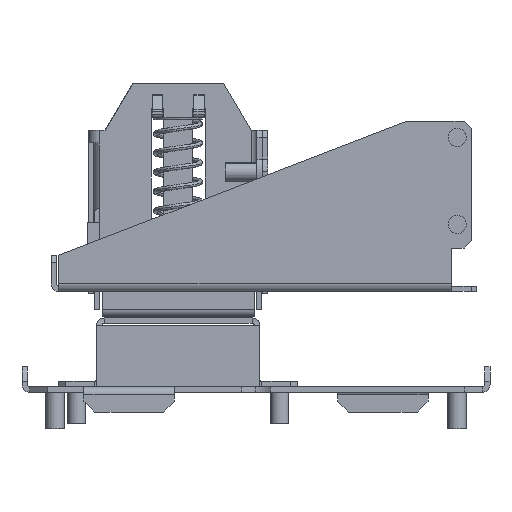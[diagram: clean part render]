
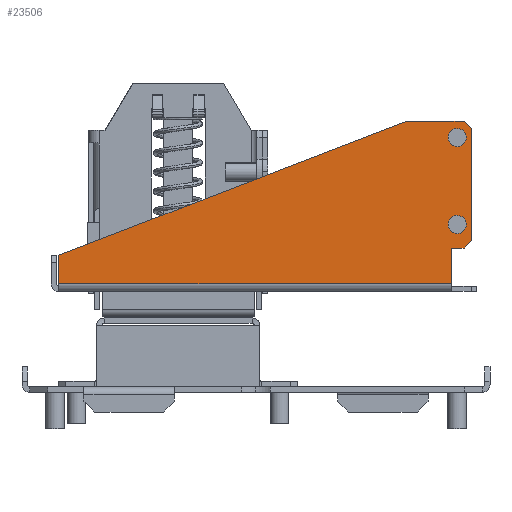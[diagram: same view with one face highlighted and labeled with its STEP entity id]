
A CAD part, left-side view. The second image highlights one B-rep face of the part: STEP entity #23506.
In plain terms, the highlighted planar face has unit normal (-1, 0, 0).
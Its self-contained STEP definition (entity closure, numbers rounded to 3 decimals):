
#18516=CARTESIAN_POINT(' ',(-68.25,-50.4,0.6));
#18517=VERTEX_POINT(' ',#18516);
#18531=CARTESIAN_POINT(' ',(-68.25,-50.4,0.6));
#18536=DIRECTION(' ',(0.,1.,0.));
#18541=VECTOR(' ',#18536,1.);
#18546=LINE('',#18531,#18541);
#18551=CARTESIAN_POINT(' ',(-68.25,58.,0.6));
#18552=VERTEX_POINT(' ',#18551);
#18556=EDGE_CURVE(' ',#18517,#18552,#18546,.T.);
#23156=CARTESIAN_POINT(' ',(-68.25,-50.4,10.5));
#23157=VERTEX_POINT(' ',#23156);
#23171=CARTESIAN_POINT(' ',(-68.25,-50.4,10.5));
#23176=DIRECTION(' ',(0.,0.,-1.));
#23181=VECTOR(' ',#23176,1.);
#23186=LINE('',#23171,#23181);
#23191=EDGE_CURVE(' ',#23157,#18517,#23186,.T.);
#23221=DIRECTION(' ',(-1.,-0.,0.));
#23226=CARTESIAN_POINT(' ',(-68.25,-55.9,45.5));
#23231=DIRECTION(' ',(-0.,1.,0.));
#23236=AXIS2_PLACEMENT_3D(' ',#23226,#23221,#23231);
#23241=PLANE('NONE',#23236);
#23246=CARTESIAN_POINT(' ',(-68.25,-53.9,10.5));
#23251=DIRECTION(' ',(0.,1.,0.));
#23256=VECTOR(' ',#23251,1.);
#23261=LINE('',#23246,#23256);
#23266=CARTESIAN_POINT(' ',(-68.25,-53.9,10.5));
#23267=VERTEX_POINT(' ',#23266);
#23271=EDGE_CURVE(' ',#23267,#23157,#23261,.T.);
#23276=ORIENTED_EDGE(' ',*,*,#23271,.F.);
#23281=CARTESIAN_POINT(' ',(-68.25,-53.9,10.5));
#23286=DIRECTION(' ',(0.,-0.707,0.707));
#23291=VECTOR(' ',#23286,1.);
#23296=LINE('',#23281,#23291);
#23301=CARTESIAN_POINT(' ',(-68.25,-55.9,12.5));
#23302=VERTEX_POINT(' ',#23301);
#23306=EDGE_CURVE(' ',#23267,#23302,#23296,.T.);
#23311=ORIENTED_EDGE(' ',*,*,#23306,.T.);
#23316=CARTESIAN_POINT(' ',(-68.25,-55.9,12.5));
#23321=DIRECTION(' ',(0.,0.,1.));
#23326=VECTOR(' ',#23321,1.);
#23331=LINE('',#23316,#23326);
#23336=CARTESIAN_POINT(' ',(-68.25,-55.9,43.5));
#23337=VERTEX_POINT(' ',#23336);
#23341=EDGE_CURVE(' ',#23302,#23337,#23331,.T.);
#23346=ORIENTED_EDGE(' ',*,*,#23341,.T.);
#23351=CARTESIAN_POINT(' ',(-68.25,-55.9,43.5));
#23356=DIRECTION(' ',(0.,0.707,0.707));
#23361=VECTOR(' ',#23356,1.);
#23366=LINE('',#23351,#23361);
#23371=CARTESIAN_POINT(' ',(-68.25,-53.9,45.5));
#23372=VERTEX_POINT(' ',#23371);
#23376=EDGE_CURVE(' ',#23337,#23372,#23366,.T.);
#23381=ORIENTED_EDGE(' ',*,*,#23376,.T.);
#23386=CARTESIAN_POINT(' ',(-68.25,-53.9,45.5));
#23391=DIRECTION(' ',(0.,1.,0.));
#23396=VECTOR(' ',#23391,1.);
#23401=LINE('',#23386,#23396);
#23406=CARTESIAN_POINT(' ',(-68.25,-38.,45.5));
#23407=VERTEX_POINT(' ',#23406);
#23411=EDGE_CURVE(' ',#23372,#23407,#23401,.T.);
#23416=ORIENTED_EDGE(' ',*,*,#23411,.T.);
#23421=CARTESIAN_POINT(' ',(-68.25,-38.,45.5));
#23426=DIRECTION(' ',(0.,0.933,-0.36));
#23431=VECTOR(' ',#23426,1.);
#23436=LINE('',#23421,#23431);
#23441=CARTESIAN_POINT(' ',(-68.25,58.,8.5));
#23442=VERTEX_POINT(' ',#23441);
#23446=EDGE_CURVE(' ',#23407,#23442,#23436,.T.);
#23451=ORIENTED_EDGE(' ',*,*,#23446,.T.);
#23456=CARTESIAN_POINT(' ',(-68.25,58.,8.5));
#23461=DIRECTION(' ',(0.,0.,-1.));
#23466=VECTOR(' ',#23461,1.);
#23471=LINE('',#23456,#23466);
#23476=EDGE_CURVE(' ',#23442,#18552,#23471,.T.);
#23481=ORIENTED_EDGE(' ',*,*,#23476,.T.);
#23486=ORIENTED_EDGE(' ',*,*,#18556,.F.);
#23491=ORIENTED_EDGE(' ',*,*,#23191,.F.);
#23496=EDGE_LOOP(' ',(#23276,#23311,#23346,#23381,#23416,#23451,#23481,#23486,#23491));
#23501=FACE_OUTER_BOUND(' ',#23496,.T.);
#23506=ADVANCED_FACE('NONE',(#23501),#23241,.T.);
